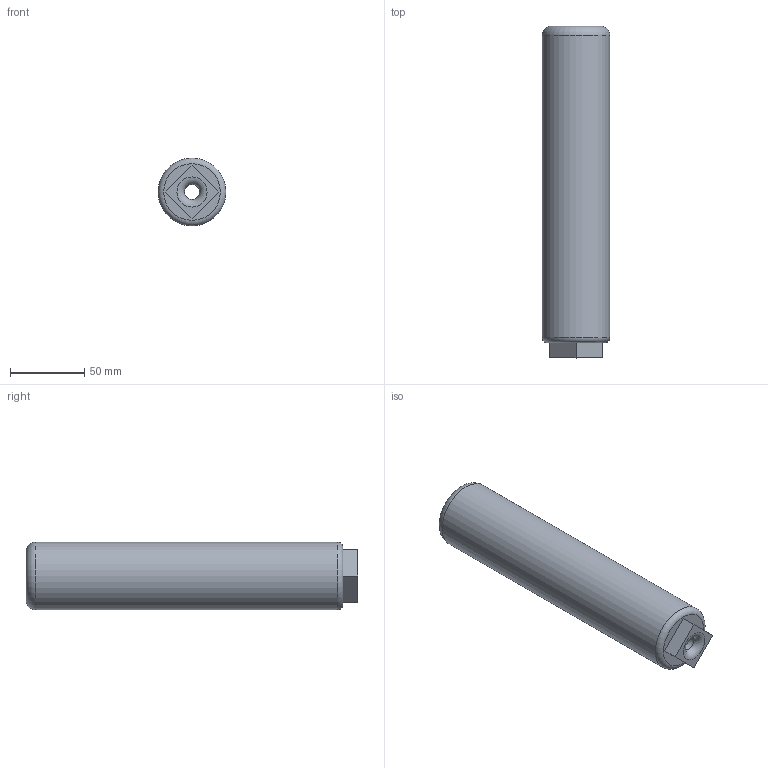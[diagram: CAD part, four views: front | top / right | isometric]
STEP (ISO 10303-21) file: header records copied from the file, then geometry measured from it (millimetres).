
FILE_DESCRIPTION(/* description */ (''),/* implementation_level */ '2;1');
FILE_NAME(/* name */ 'C:/Users/Owner/Desktop/liberator suppressed/STEP Files/36 Caliber versions/36 Cal Liberator Suppressor can 8.8 inch.step',/* time_stamp */ '2020-04-23T21:47:32-04:00',/* author */ (''),/* organization */ (''),/* preprocessor_version */ 'ST-DEVELOPER v18.1',/* originating_system */ 'Autodesk Translation Framework v9.2.0.1227',/* authorisation */ '');
FILE_SCHEMA (('AUTOMOTIVE_DESIGN { 1 0 10303 214 3 1 1 }'));
Length unit declared in the file: inch
Products named in the file (1): 38/9mm lib sup 8.8 inch
Bounding box: 45.72 x 223.52 x 45.72 mm (x, y, z)
Volume: 238547.5 mm3; surface area: 54172.6 mm2
Topology: 1 solids, 1 shells, 47 faces, 129 edges, 86 vertices
Faces by surface type: cylinder 31, plane 9, torus 5, bspline 2
Full cylindrical faces by diameter (mm): 10.16 x1, 27.038 x14, 30.162 x12, 45.72 x1
Entity records: 4288 total; most frequent: CARTESIAN_POINT 3136, ORIENTED_EDGE 258, DIRECTION 196, EDGE_CURVE 129, VERTEX_POINT 86, AXIS2_PLACEMENT_3D 77, B_SPLINE_CURVE_WITH_KNOTS 56, EDGE_LOOP 51
